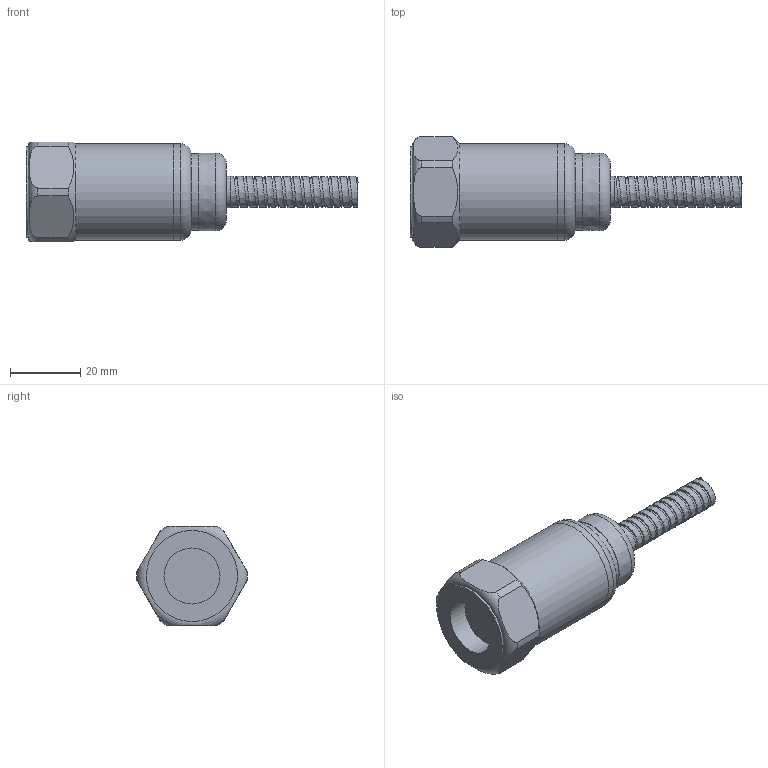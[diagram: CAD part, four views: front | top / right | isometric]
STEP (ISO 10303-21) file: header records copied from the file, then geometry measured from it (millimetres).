
FILE_DESCRIPTION(/* description */ (''),/* implementation_level */ '2;1');
FILE_NAME(/* name */ 'Z:\Engineering\Drawings\3D Library\Assemblies\Website\420 Velocity Top\HS-420XXX30C05.stp',/* time_stamp */ '2023-05-03T15:07:39+01:00',/* author */ ('Ricardo.Peneda'),/* organization */ (''),/* preprocessor_version */ 'ST-DEVELOPER v18.1',/* originating_system */ 'Autodesk Inventor 2021',/* authorisation */ '');
FILE_SCHEMA (('AUTOMOTIVE_DESIGN { 1 0 10303 214 3 1 1 }'));
Length unit declared in the file: inch
Products named in the file (1): HS-420XXX30C05_Shrinkwrap_1
Bounding box: 94.8 x 31.69 x 28.5 mm (x, y, z)
Volume: 13077.7 mm3; surface area: 14767.1 mm2
Topology: 4 solids, 4 shells, 74 faces, 202 edges, 140 vertices
Faces by surface type: cone 27, plane 19, cylinder 16, bspline 8, torus 4
Full cylindrical faces by diameter (mm): 9 x1, 16 x1, 20 x1, 22 x1, 23.3 x1, 25.3 x2, 26 x1, 27.5 x2
Entity records: 16630 total; most frequent: CARTESIAN_POINT 14581, DIRECTION 418, ORIENTED_EDGE 404, EDGE_CURVE 202, AXIS2_PLACEMENT_3D 179, VERTEX_POINT 140, CIRCLE 112, EDGE_LOOP 82
